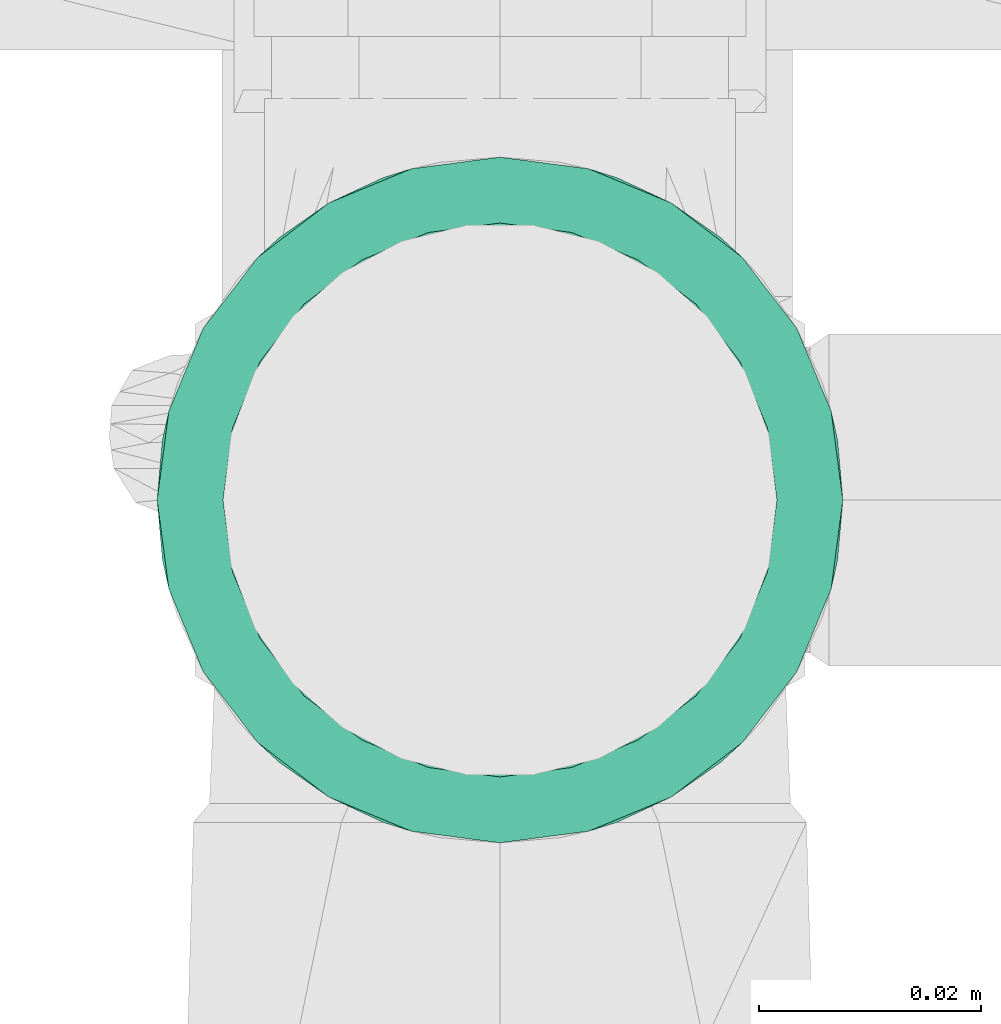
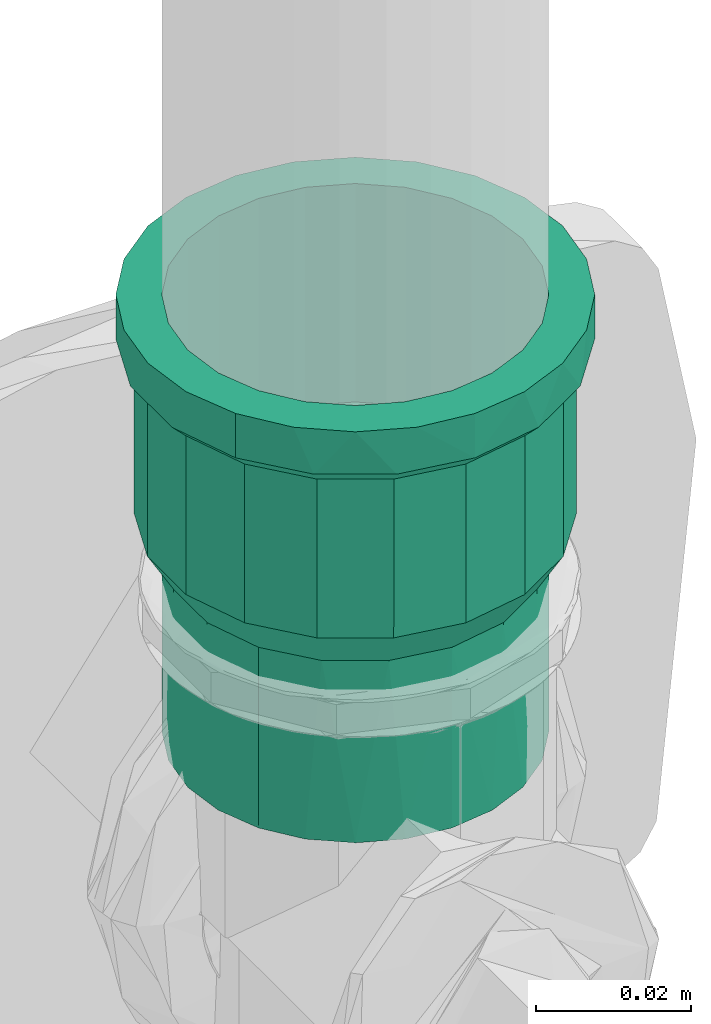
# One storey, part 246 of 589: 1 flow fitting.
"""IFC2X3 building model written with IfcOpenShell, lengths in millimetres."""

from ifc_helpers import new_model, entity, si_unit, converted_unit, derived_unit, direction, frame, origin, place, context, subcontext, project, spatial, faceted_brep, source, transform, mapped, material, type_object, type_shapes, element, save


model = new_model("IFC2X3")

# Units and contexts
model_context = context("Model", 3, precision=0.01, world=origin(), true_north=direction((6.123031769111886e-17, 1.0)))
body_context = subcontext(model_context, "Body", "Model", "MODEL_VIEW")
ifc_project = project(units=[si_unit("LENGTHUNIT", "METRE", prefix="MILLI"), si_unit("AREAUNIT", "SQUARE_METRE"), si_unit("VOLUMEUNIT", "CUBIC_METRE"), converted_unit("PLANEANGLEUNIT", "DEGREE", entity("IfcRatioMeasure", 0.017453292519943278), si_unit("PLANEANGLEUNIT", "RADIAN"), dimensions=[0, 0, 0, 0, 0, 0, 0]), si_unit("MASSUNIT", "GRAM", prefix="KILO"), derived_unit("MASSDENSITYUNIT", [(si_unit("MASSUNIT", "GRAM", prefix="KILO"), 1), (si_unit("LENGTHUNIT", "METRE"), -3)]), derived_unit("IONCONCENTRATIONUNIT", [(si_unit("MASSUNIT", "GRAM", prefix="KILO"), 1), (si_unit("LENGTHUNIT", "METRE"), -3)]), derived_unit("MOMENTOFINERTIAUNIT", [(si_unit("LENGTHUNIT", "METRE"), 4)]), si_unit("TIMEUNIT", "SECOND"), si_unit("FREQUENCYUNIT", "HERTZ"), si_unit("THERMODYNAMICTEMPERATUREUNIT", "DEGREE_CELSIUS"), derived_unit("THERMALTRANSMITTANCEUNIT", [(si_unit("MASSUNIT", "GRAM", prefix="KILO"), 1), (si_unit("THERMODYNAMICTEMPERATUREUNIT", "KELVIN"), -1), (si_unit("TIMEUNIT", "SECOND"), -3)]), derived_unit("THERMALCONDUCTANCEUNIT", [(si_unit("MASSUNIT", "GRAM", prefix="KILO"), 1), (si_unit("THERMODYNAMICTEMPERATUREUNIT", "KELVIN"), -1), (si_unit("TIMEUNIT", "SECOND"), -3), (si_unit("LENGTHUNIT", "METRE"), 1)]), derived_unit("VOLUMETRICFLOWRATEUNIT", [(si_unit("LENGTHUNIT", "METRE"), 3), (si_unit("TIMEUNIT", "SECOND"), -1)]), derived_unit("MASSFLOWRATEUNIT", [(si_unit("MASSUNIT", "GRAM", prefix="KILO"), 1), (si_unit("TIMEUNIT", "SECOND"), -1)]), derived_unit("ROTATIONALFREQUENCYUNIT", [(si_unit("TIMEUNIT", "SECOND"), -1)]), si_unit("ELECTRICCURRENTUNIT", "AMPERE"), si_unit("ELECTRICVOLTAGEUNIT", "VOLT"), si_unit("POWERUNIT", "WATT"), si_unit("FORCEUNIT", "NEWTON", prefix="KILO"), si_unit("ILLUMINANCEUNIT", "LUX"), si_unit("LUMINOUSFLUXUNIT", "LUMEN"), si_unit("LUMINOUSINTENSITYUNIT", "CANDELA"), derived_unit("USERDEFINED", [(si_unit("MASSUNIT", "GRAM", prefix="KILO"), -1), (si_unit("LENGTHUNIT", "METRE"), -2), (si_unit("TIMEUNIT", "SECOND"), 3), (si_unit("LUMINOUSFLUXUNIT", "LUMEN"), 1)]), derived_unit("USERDEFINED", [(si_unit("MASSUNIT", "GRAM", prefix="KILO"), 1), (si_unit("TIMEUNIT", "SECOND"), -3), (si_unit("LENGTHUNIT", "METRE"), 3), (si_unit("ELECTRICCURRENTUNIT", "AMPERE"), -2)]), derived_unit("SOUNDPOWERUNIT", [(si_unit("MASSUNIT", "GRAM", prefix="KILO"), 1), (si_unit("TIMEUNIT", "SECOND"), -3), (si_unit("LENGTHUNIT", "METRE"), 2)]), derived_unit("SOUNDPRESSUREUNIT", [(si_unit("MASSUNIT", "GRAM", prefix="KILO"), 1), (si_unit("LENGTHUNIT", "METRE"), -1), (si_unit("TIMEUNIT", "SECOND"), -2)]), derived_unit("LINEARVELOCITYUNIT", [(si_unit("LENGTHUNIT", "METRE"), 1), (si_unit("TIMEUNIT", "SECOND"), -1)]), si_unit("PRESSUREUNIT", "PASCAL"), derived_unit("USERDEFINED", [(si_unit("MASSUNIT", "GRAM", prefix="KILO"), 1), (si_unit("LENGTHUNIT", "METRE"), -2), (si_unit("TIMEUNIT", "SECOND"), -2)]), derived_unit("LINEARFORCEUNIT", [(si_unit("MASSUNIT", "GRAM", prefix="KILO"), 1), (si_unit("TIMEUNIT", "SECOND"), -2)]), derived_unit("PLANARFORCEUNIT", [(si_unit("MASSUNIT", "GRAM", prefix="KILO"), 1), (si_unit("LENGTHUNIT", "METRE"), -1), (si_unit("TIMEUNIT", "SECOND"), -2)]), derived_unit("SPECIFICHEATCAPACITYUNIT", [(si_unit("THERMODYNAMICTEMPERATUREUNIT", "KELVIN"), -1), (si_unit("LENGTHUNIT", "METRE"), 2), (si_unit("TIMEUNIT", "SECOND"), -2)]), derived_unit("HEATINGVALUEUNIT", [(si_unit("LENGTHUNIT", "METRE"), 2), (si_unit("TIMEUNIT", "SECOND"), -2)]), derived_unit("VAPORPERMEABILITYUNIT", [(si_unit("LENGTHUNIT", "METRE"), -1), (si_unit("TIMEUNIT", "SECOND"), 1)]), derived_unit("DYNAMICVISCOSITYUNIT", [(si_unit("MASSUNIT", "GRAM", prefix="KILO"), 1), (si_unit("TIMEUNIT", "SECOND"), -1), (si_unit("LENGTHUNIT", "METRE"), -1)]), derived_unit("THERMALEXPANSIONCOEFFICIENTUNIT", [(si_unit("THERMODYNAMICTEMPERATUREUNIT", "KELVIN"), -1)]), derived_unit("MODULUSOFELASTICITYUNIT", [(si_unit("MASSUNIT", "GRAM", prefix="KILO"), 1), (si_unit("LENGTHUNIT", "METRE"), -1), (si_unit("TIMEUNIT", "SECOND"), -2)]), derived_unit("ISOTHERMALMOISTURECAPACITYUNIT", [(si_unit("LENGTHUNIT", "METRE"), 3), (si_unit("MASSUNIT", "GRAM", prefix="KILO"), -1)]), derived_unit("MOISTUREDIFFUSIVITYUNIT", [(si_unit("TIMEUNIT", "SECOND"), -1), (si_unit("LENGTHUNIT", "METRE"), 2)])], contexts=[model_context])

# Site, building, storey
site_placement = place(None, origin())
site = spatial("IfcSite", under=ifc_project, at=site_placement, Name="Default", CompositionType="ELEMENT")
building_placement = place(site_placement, origin())
building = spatial("IfcBuilding", under=site, at=building_placement, CompositionType="ELEMENT")
storey_placement = place(building_placement, frame((0.0, 0.0, 100.0)))
storey = spatial("IfcBuildingStorey", under=building, at=storey_placement, Name="TÉRREO", CompositionType="ELEMENT", Elevation=100.0)

# Flow fitting
ifc_material = material(Name="PVC Marrom")
pipe_fitting_type = type_object("IfcPipeFittingType", Name="PVC Marrom Soldável_Adaptador Curto com Bolsa e Rosca Aninhado_Rodrigo MEP:Adaptador", PredefinedType="NOTDEFINED", material=ifc_material)
shared_shape = source(origin(), body_context, "Body", "Brep", [
    faceted_brep([(0.0, 12.499999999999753, -21.65063509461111), (0.0, 21.884954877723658, -21.88495487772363), (0.0, 15.475000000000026, -26.803486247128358), (0.0, 17.677669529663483, -17.6776695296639), (0.0, 6.470476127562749, -24.14814565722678), (0.0, 26.803486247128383, -15.474999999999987), (0.0, 21.650635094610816, -12.500000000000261), (0.0, 24.148145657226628, -6.470476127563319), (0.0, 29.895404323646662, -8.01044944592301), (0.0, 25.0, 0.0), (0.0, 30.95, 0.0), (0.0, 24.14814565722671, 6.470476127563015), (0.0, 29.895404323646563, 8.010449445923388), (0.0, 21.65063509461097, 12.499999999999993), (0.0, 26.80348624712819, 15.475000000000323), (0.0, 17.6776695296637, 17.677669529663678), (0.0, 21.884954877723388, 21.884954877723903), (0.0, 12.500000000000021, 21.65063509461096), (0.0, 15.474999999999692, 26.803486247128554), (0.0, 6.4704761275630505, 24.1481456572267), (0.0, 8.010449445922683, 29.89540432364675), (0.0, 0.0, 25.0), (0.0, 0.0, 30.95), (0.0, -6.4704761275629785, 24.14814565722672), (0.0, -8.010449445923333, 29.895404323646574), (0.0, -12.49999999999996, 21.650635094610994), (0.0, -15.475000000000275, 26.803486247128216), (0.0, -17.677669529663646, 17.67766952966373), (0.0, -21.884954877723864, 21.884954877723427), (0.0, -21.65063509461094, 12.500000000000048), (0.0, -26.803486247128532, 15.474999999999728), (0.0, -29.89540432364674, 8.010449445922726), (0.0, -24.14814565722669, 6.4704761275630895), (0.0, -30.95, 0.0), (0.0, -25.0, 0.0), (0.0, -29.895404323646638, -8.010449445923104), (0.0, -24.148145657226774, -6.470476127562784), (0.0, -26.803486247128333, -15.475000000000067), (0.0, -21.6506350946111, -12.499999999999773), (0.0, -21.884954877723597, -21.884954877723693), (0.0, -17.677669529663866, -17.67766952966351), (0.0, -15.474999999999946, -26.803486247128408), (0.0, -12.500000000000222, -21.650635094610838), (0.0, -8.010449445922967, -29.895404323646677), (0.0, -6.470476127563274, -24.148145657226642), (0.0, 0.0, -30.95), (0.0, 0.0, -25.0), (0.0, 8.010449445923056, -29.895404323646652), (7.0, -30.016595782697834, 5.29316701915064), (7.0, -29.88065133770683, 6.064083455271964), (7.0, -29.083191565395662, 10.586334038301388), (7.0, -23.70796650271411, 19.895598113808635), (7.0, -19.590362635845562, 23.350189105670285), (7.0, -26.395579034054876, 15.24096607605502), (7.0, -5.3710129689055, 30.480398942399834), (7.0, -10.421885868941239, 28.6425895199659), (7.0, -30.95, 0.0), (7.0, -15.472758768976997, 26.804780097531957), (7.0, 10.42907040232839, 28.639974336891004), (7.0, 15.479482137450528, 26.80089798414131), (7.0, 5.37865866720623, 30.479050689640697), (7.0, 19.596219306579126, 23.345274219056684), (7.0, 23.712956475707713, 19.889650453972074), (7.0, 29.08584618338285, 10.57903832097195), (7.0, 30.95, 0.0), (7.0, 26.39940132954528, 15.234344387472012), (7.0, 0.0038228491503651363, 30.47972481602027), (7.0, 29.08584618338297, -10.579038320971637), (7.0, 23.71295647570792, -19.88965045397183), (7.0, 19.596219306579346, -23.3452742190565), (7.0, 26.39940132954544, -15.234344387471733), (7.0, 5.378658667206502, -30.47905068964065), (7.0, 10.429070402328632, -28.639974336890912), (7.0, 15.47948213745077, -26.800897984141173), (7.0, -30.0165957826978, -5.2931670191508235), (7.0, -10.421885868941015, -28.642589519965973), (7.0, -15.472758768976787, -26.804780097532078), (7.0, -5.3710129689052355, -30.480398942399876), (7.0, -19.590362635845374, -23.350189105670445), (7.0, -23.707966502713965, -19.895598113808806), (7.0, -29.083191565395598, -10.58633403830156), (7.0, -29.88065131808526, -6.064083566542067), (7.0, -26.395579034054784, -15.240966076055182), (7.0, 0.003822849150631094, -30.479724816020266), (9.400000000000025, -26.87493630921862, 9.782525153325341), (9.400000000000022, -27.737468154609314, 4.891262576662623), (34.4499999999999, -26.875116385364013, 9.782030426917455), (9.40000000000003, -18.102887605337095, 21.577234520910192), (34.4499999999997, -14.299296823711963, 24.768732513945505), (9.400000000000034, -14.297928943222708, 24.769522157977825), (9.400000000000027, -24.391391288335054, 14.083736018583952), (34.44999999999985, -24.391819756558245, 14.083085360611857), (34.4499999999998, -21.908523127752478, 18.384140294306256), (34.44999999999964, -4.965271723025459, 28.165689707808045), (9.400000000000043, -4.963197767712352, 28.16605524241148), (9.400000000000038, -9.63056335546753, 26.467788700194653), (9.400000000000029, -21.907846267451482, 18.384946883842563), (9.40000000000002, -28.600000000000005, 0.0), (34.44999999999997, -27.796398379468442, 4.557325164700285), (34.44999999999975, -18.103909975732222, 21.57643640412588), (34.44999999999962, 4.967670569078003, 28.165266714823), (9.400000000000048, 0.003532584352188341, 28.165432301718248), (34.44999999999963, 0.0011994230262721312, 28.165478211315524), (34.44999999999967, -9.632284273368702, 26.46721111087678), (9.400000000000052, 4.970262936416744, 28.164809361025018), (9.400000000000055, 9.63720237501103, 26.465372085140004), (34.449999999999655, 14.301406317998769, 24.76751455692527), (9.40000000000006, 14.304141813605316, 24.765934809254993), (34.449999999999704, 18.105747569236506, 21.574894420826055), (34.44999999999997, -27.73755819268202, 4.891015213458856), (34.449999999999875, 26.875949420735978, 9.779741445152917), (34.450000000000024, 28.600000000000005, 0.0), (9.400000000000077, 26.87738936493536, 9.77578339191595), (34.449999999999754, 21.910088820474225, 18.38227428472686), (9.40000000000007, 21.91245735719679, 18.379450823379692), (9.400000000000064, 18.108299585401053, 21.57269281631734), (34.44999999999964, 9.634538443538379, 26.46639063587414), (9.400000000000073, 24.394923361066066, 14.077617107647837), (34.450000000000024, -28.600000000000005, 0.0), (9.40000000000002, 28.600000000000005, 0.0), (34.44999999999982, 24.3930191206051, 14.081007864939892), (9.40000000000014, 26.87738936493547, -9.77578339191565), (34.45000000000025, 26.87594942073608, -9.77974144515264), (9.400000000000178, -18.10288760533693, -21.577234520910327), (34.45000000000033, -14.299296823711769, -24.76873251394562), (34.45000000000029, -18.10390997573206, -21.57643640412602), (9.400000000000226, 18.108299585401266, -21.57269281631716), (9.400000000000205, 21.912457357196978, -18.37945082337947), (34.450000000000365, 21.910088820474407, -18.38227428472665), (9.400000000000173, 24.394923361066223, -14.077617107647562), (34.45000000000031, 24.393019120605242, -14.081007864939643), (9.40000000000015, -21.907846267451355, -18.384946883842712), (34.45000000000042, 0.0011994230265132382, -28.165478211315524), (9.400000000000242, -4.963197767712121, -28.166055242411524), (9.40000000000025, 0.0035325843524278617, -28.165432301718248), (9.40000000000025, 9.637202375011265, -26.46537208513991), (9.400000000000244, 14.304141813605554, -24.765934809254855), (34.45000000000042, 14.301406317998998, -24.76751455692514), (9.400000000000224, -9.63056335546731, -26.467788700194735), (34.45000000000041, -4.965271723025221, -28.165689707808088), (34.45000000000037, -9.632284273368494, -26.467211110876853), (34.45000000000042, 9.634538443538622, -26.46639063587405), (9.400000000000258, 4.970262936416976, -28.164809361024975), (9.400000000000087, -26.874936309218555, -9.782525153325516), (9.40000000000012, -24.391391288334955, -14.083736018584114), (34.45000000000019, -24.391819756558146, -14.083085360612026), (34.450000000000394, 18.1057475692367, -21.574894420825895), (34.450000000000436, 4.967670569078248, -28.16526671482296), (34.45000000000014, -26.875116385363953, -9.782030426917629), (34.45000000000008, -27.796398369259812, -4.557325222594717), (9.400000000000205, -14.297928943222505, -24.769522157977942), (9.400000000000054, -27.737468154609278, -4.891262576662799), (34.450000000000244, -21.908523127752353, -18.38414029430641), (34.45000000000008, -27.737558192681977, -4.891015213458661), (69.0, 6.4704761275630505, -24.1481456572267), (69.0, 12.500000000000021, -21.65063509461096), (69.0, 17.6776695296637, -17.677669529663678), (69.0, 21.650635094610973, -12.499999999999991), (69.0, 24.14814565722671, -6.470476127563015), (69.0, 25.0, 0.0), (69.0, 24.148145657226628, 6.470476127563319), (69.0, 21.650635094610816, 12.500000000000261), (69.0, 17.677669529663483, 17.6776695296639), (69.0, 12.499999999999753, 21.65063509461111), (69.0, 6.470476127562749, 24.14814565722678), (69.0, 0.0, 25.0), (69.0, -6.470476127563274, 24.148145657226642), (69.0, -12.500000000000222, 21.650635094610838), (69.0, -17.67766952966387, 17.677669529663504), (69.0, -21.650635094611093, 12.499999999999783), (69.0, -24.148145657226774, 6.470476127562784), (69.0, -25.0, 0.0), (69.0, -24.14814565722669, -6.4704761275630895), (69.0, -21.650635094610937, -12.500000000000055), (69.0, -17.677669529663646, -17.67766952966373), (69.0, -12.49999999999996, -21.650635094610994), (69.0, -6.4704761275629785, -24.14814565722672), (69.0, 0.0, -25.0), (40.499999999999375, -8.41832461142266, 23.136178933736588), (40.49999999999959, -19.1502152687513, 16.070757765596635), (40.49999999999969, -21.321146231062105, 12.310958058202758), (40.49999999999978, -23.492077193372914, 8.551158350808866), (40.49999999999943, -12.498189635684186, 21.651680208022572), (40.49999999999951, -15.824202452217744, 18.861218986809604), (40.49999999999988, -24.246038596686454, 4.2755791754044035), (40.49999999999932, -4.3384595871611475, 24.620677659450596), (40.499999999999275, 4.344635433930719, 24.61958860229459), (40.499999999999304, 0.003087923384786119, 24.620133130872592), (40.49999999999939, 15.828933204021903, 18.85724896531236), (40.49999999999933, 12.503620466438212, 21.648544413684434), (40.49999999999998, -25.0, 0.0), (40.49999999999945, 19.154245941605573, 16.065953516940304), (40.49999999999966, 23.494221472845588, 8.545265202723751), (40.499999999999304, 8.424127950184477, 23.13406650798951), (40.49999999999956, 21.324233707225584, 12.305609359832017), (40.49999999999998, 25.0, 0.0), (40.500000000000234, 19.15424594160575, -16.065953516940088), (40.500000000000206, -15.824202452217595, -18.861218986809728), (40.50000000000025, -12.498189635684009, -21.65168020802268), (40.500000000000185, 21.32423370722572, -12.305609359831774), (40.50000000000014, 23.494221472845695, -8.545265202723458), (40.5000000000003, 12.503620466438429, -21.64854441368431), (40.50000000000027, 15.82893320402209, -18.8572489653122), (40.50000000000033, 4.344635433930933, -24.619588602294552), (40.50000000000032, 8.42412795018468, -23.13406650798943), (40.5000000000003, -4.3384595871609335, -24.62067765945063), (40.50000000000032, 0.00308792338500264, -24.620133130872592), (40.50000000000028, -8.41832461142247, -23.136178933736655), (40.50000000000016, -19.150215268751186, -16.070757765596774), (40.50000000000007, -23.49207719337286, -8.551158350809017), (40.500000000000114, -21.321146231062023, -12.31095805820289), (40.50000000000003, -24.246038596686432, -4.275579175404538), (9.40000000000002, -25.0, 0.0), (34.450000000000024, -25.0, 0.0), (34.450000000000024, -24.14814565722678, -6.470476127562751), (9.40000000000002, -24.14814565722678, -6.470476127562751), (7.0, -24.14814565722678, -6.470476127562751), (7.0, -25.0, 0.0), (34.450000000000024, -21.650635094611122, -12.499999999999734), (9.40000000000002, -21.650635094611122, -12.499999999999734), (7.0, -21.650635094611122, -12.499999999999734), (9.40000000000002, -12.500000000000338, -21.65063509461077), (7.0, -12.500000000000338, -21.65063509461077), (7.0, -17.677669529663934, -17.677669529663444), (9.40000000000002, -17.677669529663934, -17.677669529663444), (34.450000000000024, -17.677669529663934, -17.677669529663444), (34.450000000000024, -12.500000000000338, -21.65063509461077), (9.40000000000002, -6.470476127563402, -24.148145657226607), (7.0, -6.470476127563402, -24.148145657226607), (34.450000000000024, -6.470476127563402, -24.148145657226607), (34.450000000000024, 0.0, -25.0), (9.40000000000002, 0.0, -25.0), (7.0, 0.0, -25.0), (34.450000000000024, 6.470476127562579, -24.148145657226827), (9.40000000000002, 6.470476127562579, -24.148145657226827), (7.0, 6.470476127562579, -24.148145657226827), (34.450000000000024, 12.49999999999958, -21.65063509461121), (9.40000000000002, 12.49999999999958, -21.65063509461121), (7.0, 12.49999999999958, -21.65063509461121), (34.450000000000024, 24.148145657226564, -6.470476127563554), (34.450000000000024, 25.0, 0.0), (9.40000000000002, 25.0, 0.0), (7.0, 25.0, 0.0), (7.0, 24.14814565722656, -6.470476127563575), (9.40000000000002, 24.148145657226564, -6.470476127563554), (34.450000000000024, 17.677669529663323, -17.677669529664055), (9.40000000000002, 17.677669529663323, -17.677669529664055), (7.0, 17.677669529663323, -17.677669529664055), (34.450000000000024, 21.650635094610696, -12.500000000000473), (9.40000000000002, 21.650635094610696, -12.500000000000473), (7.0, 21.650635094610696, -12.500000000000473), (34.450000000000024, 24.148145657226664, 6.470476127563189), (9.40000000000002, 24.148145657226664, 6.470476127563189), (7.0, 24.148145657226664, 6.470476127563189), (34.450000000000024, 21.65063509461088, 12.50000000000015), (9.40000000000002, 21.65063509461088, 12.50000000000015), (7.0, 21.65063509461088, 12.50000000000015), (9.40000000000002, 12.49999999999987, 21.650635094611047), (7.0, 12.49999999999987, 21.650635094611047), (7.0, 17.677669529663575, 17.677669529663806), (9.40000000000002, 17.677669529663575, 17.677669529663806), (34.450000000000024, 17.677669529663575, 17.677669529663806), (34.450000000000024, 12.49999999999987, 21.650635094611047), (9.40000000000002, 6.470476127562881, 24.14814565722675), (7.0, 6.470476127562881, 24.14814565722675), (34.450000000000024, 6.470476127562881, 24.14814565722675), (34.450000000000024, 0.0, 25.0), (9.40000000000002, 0.0, 25.0), (7.0, 0.0, 25.0), (9.40000000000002, -17.677669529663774, 17.677669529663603), (7.0, -17.677669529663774, 17.677669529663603), (7.0, -12.50000000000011, 21.650635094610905), (9.40000000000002, -12.50000000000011, 21.650635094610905), (34.450000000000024, -12.50000000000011, 21.650635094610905), (34.450000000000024, -17.677669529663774, 17.677669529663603), (9.40000000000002, -24.14814565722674, 6.470476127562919), (7.0, -24.14814565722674, 6.470476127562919), (7.0, -21.650635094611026, 12.499999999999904), (9.40000000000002, -21.650635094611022, 12.499999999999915), (34.450000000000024, -21.650635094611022, 12.499999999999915), (34.450000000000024, -24.14814565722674, 6.470476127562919), (7.0, -6.470476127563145, 24.148145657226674), (9.40000000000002, -6.470476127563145, 24.148145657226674), (34.450000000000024, -6.470476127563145, 24.148145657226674)], [[[0, 1, 2]], [[3, 1, 0]], [[4, 0, 2]], [[1, 3, 5]], [[5, 3, 6]], [[5, 6, 7]], [[8, 5, 7]], [[9, 8, 7]], [[10, 8, 9]], [[10, 9, 11]], [[12, 10, 11]], [[12, 11, 13]], [[14, 12, 13]], [[14, 13, 15]], [[15, 16, 14]], [[15, 17, 16]], [[18, 16, 17]], [[19, 18, 17]], [[18, 19, 20]], [[21, 20, 19]], [[22, 20, 21]], [[21, 23, 22]], [[24, 22, 23]], [[25, 24, 23]], [[24, 25, 26]], [[25, 27, 26]], [[27, 28, 26]], [[28, 27, 29]], [[28, 29, 30]], [[30, 29, 31]], [[31, 29, 32]], [[33, 31, 32]], [[32, 34, 33]], [[33, 34, 35]], [[34, 36, 35]], [[37, 35, 36]], [[37, 36, 38]], [[39, 37, 38]], [[40, 39, 38]], [[40, 41, 39]], [[42, 41, 40]], [[43, 41, 42]], [[42, 44, 43]], [[43, 44, 45]], [[44, 46, 45]], [[46, 4, 47]], [[45, 46, 47]], [[2, 47, 4]], [[31, 48, 49, 50]], [[28, 51, 52]], [[51, 30, 50, 53]], [[54, 24, 55]], [[30, 31, 50]], [[56, 48, 33]], [[52, 57, 26]], [[52, 26, 28]], [[30, 51, 28]], [[58, 59, 18]], [[58, 18, 20]], [[26, 57, 55]], [[26, 55, 24]], [[22, 24, 54]], [[33, 48, 31]], [[20, 60, 58]], [[16, 61, 62]], [[12, 63, 64]], [[63, 14, 62, 65]], [[12, 64, 10]], [[18, 61, 16]], [[22, 54, 66, 60]], [[22, 60, 20]], [[14, 16, 62]], [[59, 61, 18]], [[14, 63, 12]], [[8, 64, 67]], [[1, 68, 69]], [[68, 5, 67, 70]], [[71, 47, 72]], [[5, 8, 67]], [[8, 10, 64]], [[2, 72, 47]], [[69, 73, 2]], [[5, 68, 1]], [[74, 33, 35]], [[75, 76, 41]], [[2, 73, 72]], [[75, 41, 43]], [[45, 47, 71]], [[69, 2, 1]], [[43, 77, 75]], [[39, 78, 79]], [[35, 80, 81, 74]], [[80, 37, 79, 82]], [[37, 80, 35]], [[41, 78, 39]], [[45, 71, 83, 77]], [[45, 77, 43]], [[37, 39, 79]], [[76, 78, 41]], [[74, 56, 33]], [[84, 85, 86]], [[87, 88, 89]], [[90, 91, 92]], [[93, 94, 95]], [[92, 96, 90]], [[85, 97, 98]], [[99, 87, 96]], [[91, 84, 86]], [[100, 101, 102]], [[93, 95, 103]], [[89, 103, 95]], [[84, 91, 90]], [[100, 104, 101]], [[88, 87, 99]], [[105, 106, 107]], [[108, 107, 106]], [[85, 98, 109, 86]], [[102, 94, 93]], [[110, 111, 112]], [[113, 114, 115]], [[116, 104, 100]], [[112, 117, 110]], [[113, 115, 108]], [[104, 116, 105]], [[97, 118, 98]], [[115, 107, 108]], [[119, 112, 111]], [[99, 96, 92]], [[117, 114, 120]], [[110, 117, 120]], [[103, 89, 88]], [[102, 101, 94]], [[120, 114, 113]], [[106, 105, 116]], [[121, 111, 122]], [[123, 124, 125]], [[126, 127, 128]], [[129, 122, 130]], [[125, 131, 123]], [[129, 121, 122]], [[132, 133, 134]], [[135, 136, 137]], [[138, 139, 140]], [[119, 111, 121]], [[130, 127, 129]], [[141, 142, 135]], [[143, 144, 145]], [[126, 128, 146]], [[134, 147, 132]], [[135, 137, 141]], [[132, 139, 133]], [[138, 133, 139]], [[137, 136, 146]], [[143, 145, 148]], [[147, 142, 141]], [[149, 118, 97]], [[123, 150, 124]], [[124, 150, 140]], [[148, 151, 143]], [[146, 136, 126]], [[152, 144, 131]], [[151, 148, 153, 149]], [[144, 152, 145]], [[152, 131, 125]], [[142, 147, 134]], [[149, 97, 151]], [[128, 127, 130]], [[140, 150, 138]], [[154, 155, 156, 157, 158, 159, 160, 161, 162, 163, 164, 165, 166, 167, 168, 169, 170, 171, 172, 173, 174, 175, 176, 177]], [[178, 167, 166]], [[169, 168, 179]], [[169, 179, 180, 181]], [[182, 183, 167]], [[170, 181, 184]], [[166, 185, 178]], [[179, 168, 183]], [[165, 186, 187, 185]], [[165, 185, 166]], [[167, 183, 168]], [[188, 189, 163]], [[184, 171, 170]], [[184, 190, 171]], [[161, 191, 162]], [[169, 181, 170]], [[161, 160, 192]], [[163, 193, 164]], [[161, 192, 194, 191]], [[195, 160, 159]], [[164, 193, 186]], [[186, 165, 164]], [[189, 193, 163]], [[188, 163, 162]], [[162, 191, 188]], [[160, 195, 192]], [[178, 182, 167]], [[195, 159, 158]], [[157, 156, 196]], [[197, 198, 175]], [[157, 196, 199, 200]], [[201, 202, 155]], [[200, 195, 158]], [[154, 203, 204]], [[196, 156, 202]], [[177, 205, 206, 203]], [[197, 175, 174]], [[155, 202, 156]], [[204, 201, 155]], [[175, 198, 207]], [[157, 200, 158]], [[204, 155, 154]], [[173, 208, 174]], [[173, 172, 209]], [[173, 209, 210, 208]], [[171, 190, 211]], [[205, 177, 176]], [[207, 205, 176]], [[175, 207, 176]], [[174, 208, 197]], [[211, 209, 172]], [[171, 211, 172]], [[177, 203, 154]], [[212, 213, 214, 215, 216, 36, 34, 217]], [[215, 214, 218, 219, 220, 38, 36, 216]], [[221, 222, 42, 40, 223, 224, 225, 226]], [[225, 224, 223, 40, 38, 220, 219, 218]], [[227, 228, 44, 42, 222, 221, 226, 229]], [[227, 229, 230, 231, 232, 46, 44, 228]], [[231, 230, 233, 234, 235, 4, 46, 232]], [[234, 233, 236, 237, 238, 0, 4, 235]], [[239, 240, 241, 242, 9, 7, 243, 244]], [[237, 236, 245, 246, 247, 3, 0, 238]], [[245, 248, 249, 250, 6, 3, 247, 246]], [[248, 239, 244, 243, 7, 6, 250, 249]], [[241, 240, 251, 252, 253, 11, 9, 242]], [[252, 251, 254, 255, 256, 13, 11, 253]], [[257, 258, 17, 15, 259, 260, 261, 262]], [[261, 260, 259, 15, 13, 256, 255, 254]], [[263, 264, 19, 17, 258, 257, 262, 265]], [[263, 265, 266, 267, 268, 21, 19, 264]], [[269, 270, 27, 25, 271, 272, 273, 274]], [[275, 276, 32, 29, 277, 278, 279, 280]], [[274, 279, 278, 277, 29, 27, 270, 269]], [[212, 217, 34, 32, 276, 275, 280, 213]], [[273, 272, 271, 25, 23, 281, 282, 283]], [[267, 266, 283, 282, 281, 23, 21, 268]], [[64, 119, 121, 67]], [[81, 80, 143, 151, 97, 56, 74]], [[73, 136, 135, 142, 71, 72]], [[71, 142, 134, 133, 77, 83]], [[73, 69, 68, 127, 126, 136]], [[127, 68, 70, 67, 121, 129]], [[77, 133, 138, 150, 76, 75]], [[143, 80, 82, 79, 131, 144]], [[78, 76, 150, 123, 131, 79]], [[84, 50, 49, 48, 56, 97, 85]], [[53, 50, 84, 90, 96, 51]], [[52, 51, 96, 87, 89, 57]], [[89, 95, 94, 54, 55, 57]], [[101, 104, 60, 66, 54, 94]], [[105, 107, 59, 58, 60, 104]], [[112, 119, 64, 63]], [[114, 117, 112, 63, 65, 62]], [[107, 115, 114, 62, 61, 59]], [[233, 230, 229, 226, 225, 218, 214, 213, 280, 279, 274, 273, 283, 266, 265, 262, 261, 254, 251, 240, 239, 248, 245, 236]], [[190, 109, 98, 118]], [[184, 86, 109]], [[181, 86, 184]], [[185, 93, 178]], [[103, 88, 182]], [[99, 92, 179]], [[182, 88, 183]], [[91, 86, 181]], [[103, 182, 178]], [[178, 93, 103]], [[102, 185, 187]], [[180, 92, 91]], [[187, 100, 102]], [[91, 181, 180]], [[183, 88, 99]], [[99, 179, 183]], [[187, 186, 100]], [[191, 113, 188]], [[116, 100, 186]], [[179, 92, 180]], [[93, 185, 102]], [[189, 106, 193]], [[192, 195, 111]], [[120, 113, 191]], [[192, 110, 194]], [[108, 106, 189]], [[120, 191, 194]], [[194, 110, 120]], [[109, 190, 184]], [[188, 113, 108]], [[192, 111, 110]], [[108, 189, 188]], [[193, 106, 116]], [[116, 186, 193]], [[195, 200, 111]], [[203, 141, 204]], [[201, 146, 202]], [[196, 130, 199]], [[203, 147, 141]], [[201, 137, 146]], [[205, 132, 206]], [[196, 128, 130]], [[202, 128, 196]], [[111, 200, 122]], [[199, 130, 122]], [[146, 128, 202]], [[207, 139, 205]], [[206, 147, 203]], [[204, 141, 137]], [[199, 122, 200]], [[205, 139, 132]], [[204, 137, 201]], [[198, 124, 140]], [[198, 140, 207]], [[190, 153, 211]], [[209, 145, 210]], [[190, 118, 149, 153]], [[209, 148, 145]], [[208, 125, 197]], [[208, 152, 125]], [[210, 152, 208]], [[139, 207, 140]], [[125, 124, 197]], [[210, 145, 152]], [[211, 153, 148]], [[197, 124, 198]], [[206, 132, 147]], [[211, 148, 209]]]),
])
type_shapes(pipe_fitting_type, [shared_shape])
flow_fitting_placement = place(storey_placement, frame((-87.78535366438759, 3119.2147625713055, 1288.080916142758), z_axis=(-1.0, 0.0, 0.0), x_axis=(0.0, 0.0, -1.0)))
element("IfcFlowFitting", 1, at=flow_fitting_placement, inside=storey, type_object=pipe_fitting_type, material=ifc_material, Name="PVC Marrom Soldável_Adaptador Curto com Bolsa e Rosca Aninhado_Rodrigo MEP:Adaptador", ObjectType="PVC Marrom Soldável_Adaptador Curto com Bolsa e Rosca Aninhado_Rodrigo MEP:Adaptador", context=body_context, shape_type="MappedRepresentation", body=[
    mapped(shared_shape, transform((0.0, 0.0, 0.0), scale=1.0)),
])

save(model, "model.ifc")
